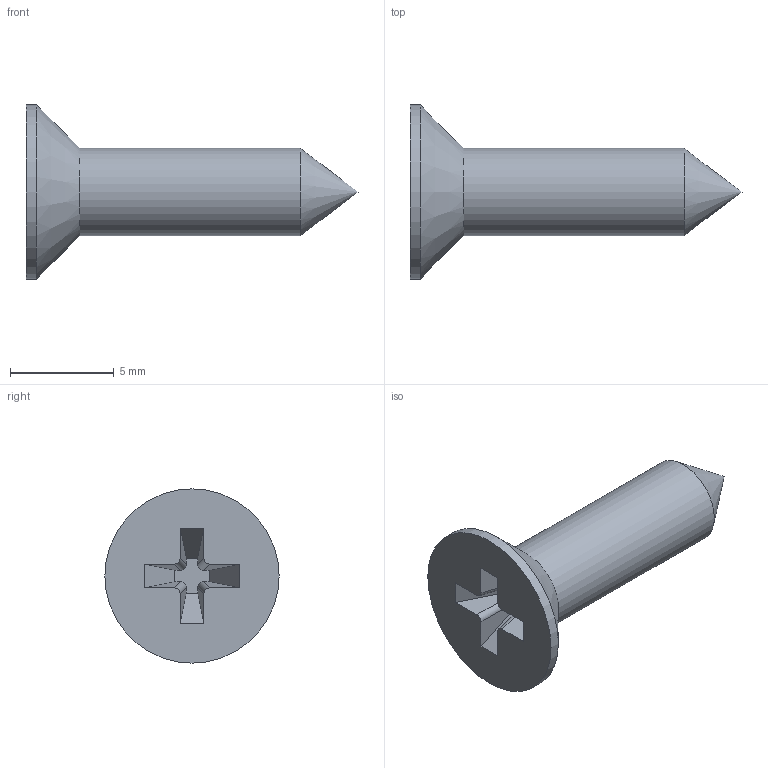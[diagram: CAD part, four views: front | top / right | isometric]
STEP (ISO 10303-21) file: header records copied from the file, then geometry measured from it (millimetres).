
FILE_DESCRIPTION (( 'STEP AP203' ), '1' );
FILE_NAME ('Vis à tôle tête conique empreinte cruciforme DIN 7050 - ST4.2 x 16 - C - H.STEP', '2026-06-24T07:29:48', ( '' ), ( '' ), 'SwSTEP 2.0', 'SolidWorks 2024', '' );
FILE_SCHEMA (( 'CONFIG_CONTROL_DESIGN' ));
Length unit declared in the file: millimetre
Products named in the file (1): Vis à tôle tête conique empreinte cruciforme DIN 7050 - ST4.2 x 16 - C - H_Tapping screw DIN 7982-ST4.2x16-C-H-C
Bounding box: 16 x 8.4 x 8.4 mm (x, y, z)
Volume: 245.2 mm3; surface area: 309.9 mm2
Topology: 1 solids, 1 shells, 22 faces, 58 edges, 38 vertices
Faces by surface type: plane 14, bspline 4, cylinder 2, cone 2
Full cylindrical faces by diameter (mm): 4.2 x1, 8.4 x1
Entity records: 755 total; most frequent: CARTESIAN_POINT 175, ORIENTED_EDGE 104, DIRECTION 94, EDGE_CURVE 52, VECTOR 40, LINE 40, VERTEX_POINT 36, AXIS2_PLACEMENT_3D 27
